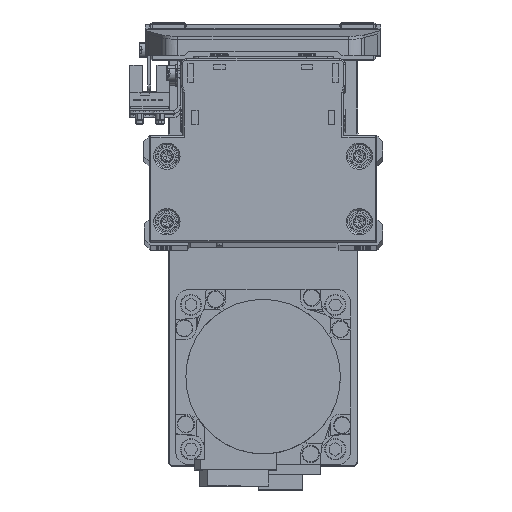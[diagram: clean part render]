
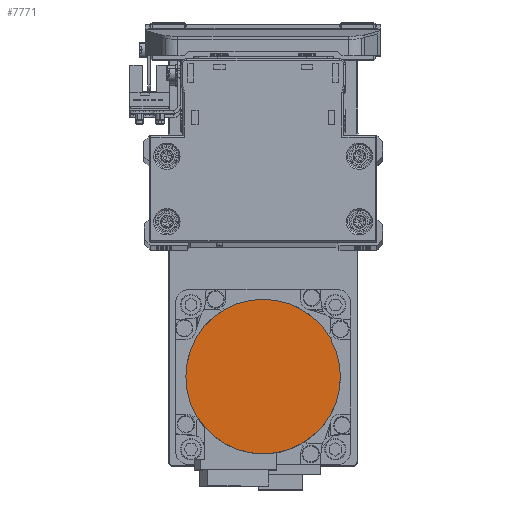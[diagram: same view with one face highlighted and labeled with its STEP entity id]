
A CAD part, top view. The second image highlights one B-rep face of the part: STEP entity #7771.
In plain terms, the highlighted planar face has unit normal (0, 0, 1) as drawn and (0, 0, -1) by its records, which use the part's own axes.
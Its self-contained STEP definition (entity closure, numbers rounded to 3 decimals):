
#3183 = CARTESIAN_POINT ( 'NONE',  ( 0., 0., -109.7 ) ) ;
#3240 = DIRECTION ( 'NONE',  ( 1., 0., 0. ) ) ;
#5505 = CIRCLE ( 'NONE', #28853, 26.5 ) ;
#7771 = ADVANCED_FACE ( 'NONE', ( #14744 ), #27479, .F. ) ;
#8366 = EDGE_CURVE ( 'NONE', #16967, #9808, #31250, .T. ) ;
#9808 = VERTEX_POINT ( 'NONE', #35969 ) ;
#10802 = EDGE_LOOP ( 'NONE', ( #24567, #37883 ) ) ;
#11639 = DIRECTION ( 'NONE',  ( 0., 0., 1. ) ) ;
#11892 = AXIS2_PLACEMENT_3D ( 'NONE', #40233, #11639, #24358 ) ;
#13262 = AXIS2_PLACEMENT_3D ( 'NONE', #3183, #15938, #28660 ) ;
#14744 = FACE_OUTER_BOUND ( 'NONE', #10802, .T. ) ;
#15938 = DIRECTION ( 'NONE',  ( 0., 0., 1. ) ) ;
#16967 = VERTEX_POINT ( 'NONE', #22293 ) ;
#19121 = CARTESIAN_POINT ( 'NONE',  ( 0., 0., -109.7 ) ) ;
#19655 = EDGE_CURVE ( 'NONE', #9808, #16967, #5505, .T. ) ;
#22293 = CARTESIAN_POINT ( 'NONE',  ( -26.5, 0., -109.7 ) ) ;
#24358 = DIRECTION ( 'NONE',  ( 1., 0., 0. ) ) ;
#24567 = ORIENTED_EDGE ( 'NONE', *, *, #8366, .F. ) ;
#27479 = PLANE ( 'NONE',  #11892 ) ;
#28660 = DIRECTION ( 'NONE',  ( -1., 0., 0. ) ) ;
#28853 = AXIS2_PLACEMENT_3D ( 'NONE', #19121, #31866, #3240 ) ;
#31250 = CIRCLE ( 'NONE', #13262, 26.5 ) ;
#31866 = DIRECTION ( 'NONE',  ( 0., 0., 1. ) ) ;
#35969 = CARTESIAN_POINT ( 'NONE',  ( 26.5, 0., -109.7 ) ) ;
#37883 = ORIENTED_EDGE ( 'NONE', *, *, #19655, .F. ) ;
#40233 = CARTESIAN_POINT ( 'NONE',  ( 0., 0., -109.7 ) ) ;
